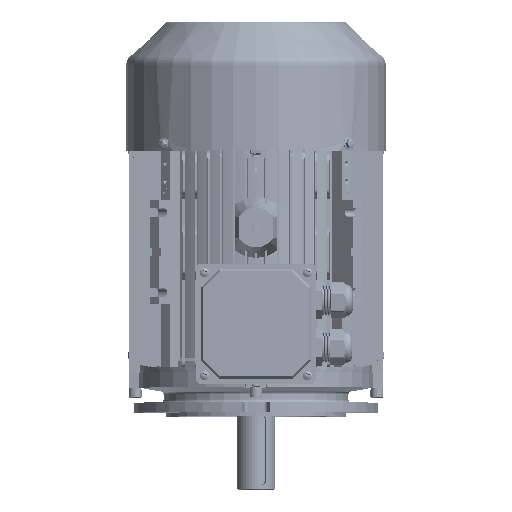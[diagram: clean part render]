
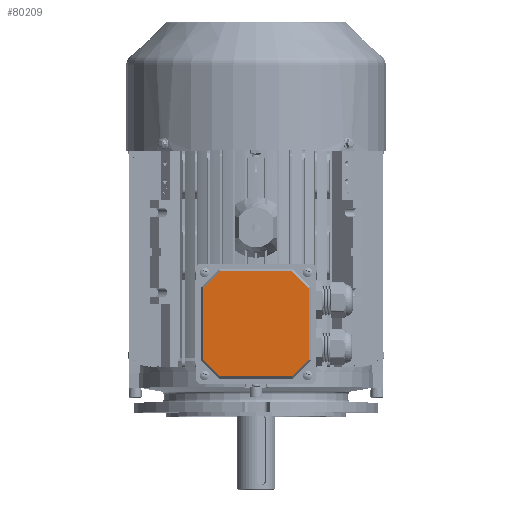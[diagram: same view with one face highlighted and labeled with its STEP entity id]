
A CAD part, top view. The second image highlights one B-rep face of the part: STEP entity #80209.
In plain terms, the highlighted planar face has unit normal (0, 0, 1) as drawn and (0, 0, -1) by its records, which use the part's own axes.
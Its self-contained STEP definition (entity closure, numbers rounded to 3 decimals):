
#11228 = VERTEX_POINT ( 'NONE', #29469 ) ;
#11957 = PLANE ( 'NONE',  #80548 ) ;
#13191 = VERTEX_POINT ( 'NONE', #42967 ) ;
#14477 = VERTEX_POINT ( 'NONE', #82709 ) ;
#15819 = LINE ( 'NONE', #91361, #117903 ) ;
#17680 = CARTESIAN_POINT ( 'NONE',  ( 52.536, 0., -4. ) ) ;
#19867 = LINE ( 'NONE', #121481, #67750 ) ;
#22318 = DIRECTION ( 'NONE',  ( 1., 0., 0. ) ) ;
#22904 = LINE ( 'NONE', #91752, #50037 ) ;
#26185 = EDGE_CURVE ( 'NONE', #57974, #48850, #95060, .T. ) ;
#26287 = LINE ( 'NONE', #17680, #50233 ) ;
#27495 = EDGE_CURVE ( 'NONE', #48850, #11228, #22904, .T. ) ;
#29469 = CARTESIAN_POINT ( 'NONE',  ( -35.903, -52.536, -4. ) ) ;
#30638 = DIRECTION ( 'NONE',  ( 0.707, -0.707, 0. ) ) ;
#33370 = DIRECTION ( 'NONE',  ( -0.707, -0.707, 0. ) ) ;
#33431 = DIRECTION ( 'NONE',  ( 0., -1., 0. ) ) ;
#40153 = CARTESIAN_POINT ( 'NONE',  ( 44.22, -44.22, -4. ) ) ;
#42967 = CARTESIAN_POINT ( 'NONE',  ( 52.536, -35.903, -4. ) ) ;
#48850 = VERTEX_POINT ( 'NONE', #116687 ) ;
#50037 = VECTOR ( 'NONE', #30638, 1000. ) ;
#50233 = VECTOR ( 'NONE', #119736, 1000. ) ;
#50315 = ORIENTED_EDGE ( 'NONE', *, *, #127158, .F. ) ;
#51089 = VERTEX_POINT ( 'NONE', #124661 ) ;
#51240 = ORIENTED_EDGE ( 'NONE', *, *, #82475, .F. ) ;
#53269 = EDGE_CURVE ( 'NONE', #11228, #79626, #125595, .T. ) ;
#54682 = FACE_OUTER_BOUND ( 'NONE', #127284, .T. ) ;
#55790 = ORIENTED_EDGE ( 'NONE', *, *, #111506, .F. ) ;
#57974 = VERTEX_POINT ( 'NONE', #119567 ) ;
#61562 = VECTOR ( 'NONE', #33431, 1000. ) ;
#67750 = VECTOR ( 'NONE', #80989, 1000. ) ;
#79626 = VERTEX_POINT ( 'NONE', #113696 ) ;
#80209 = ADVANCED_FACE ( 'NONE', ( #54682 ), #11957, .F. ) ;
#80548 = AXIS2_PLACEMENT_3D ( 'NONE', #113655, #83346, #22318 ) ;
#80989 = DIRECTION ( 'NONE',  ( -1., 0., 0. ) ) ;
#82475 = EDGE_CURVE ( 'NONE', #13191, #14477, #26287, .T. ) ;
#82586 = EDGE_CURVE ( 'NONE', #96692, #51089, #19867, .T. ) ;
#82709 = CARTESIAN_POINT ( 'NONE',  ( 52.536, 35.903, -4. ) ) ;
#83346 = DIRECTION ( 'NONE',  ( 0., 0., 1. ) ) ;
#86686 = LINE ( 'NONE', #114890, #89865 ) ;
#88363 = ORIENTED_EDGE ( 'NONE', *, *, #53269, .F. ) ;
#89865 = VECTOR ( 'NONE', #33370, 1000. ) ;
#90876 = ORIENTED_EDGE ( 'NONE', *, *, #82586, .F. ) ;
#91361 = CARTESIAN_POINT ( 'NONE',  ( 44.22, 44.22, -4. ) ) ;
#91752 = CARTESIAN_POINT ( 'NONE',  ( -44.22, -44.22, -4. ) ) ;
#95060 = LINE ( 'NONE', #124713, #61562 ) ;
#96692 = VERTEX_POINT ( 'NONE', #115677 ) ;
#98578 = VECTOR ( 'NONE', #99132, 1000. ) ;
#99132 = DIRECTION ( 'NONE',  ( 1., 0., 0. ) ) ;
#102614 = ORIENTED_EDGE ( 'NONE', *, *, #116349, .F. ) ;
#111397 = DIRECTION ( 'NONE',  ( 0.707, 0.707, 0. ) ) ;
#111506 = EDGE_CURVE ( 'NONE', #14477, #96692, #15819, .T. ) ;
#113655 = CARTESIAN_POINT ( 'NONE',  ( 0., 0., -4. ) ) ;
#113696 = CARTESIAN_POINT ( 'NONE',  ( 35.903, -52.536, -4. ) ) ;
#114890 = CARTESIAN_POINT ( 'NONE',  ( -44.22, 44.22, -4. ) ) ;
#114990 = LINE ( 'NONE', #40153, #118163 ) ;
#115677 = CARTESIAN_POINT ( 'NONE',  ( 35.903, 52.536, -4. ) ) ;
#116349 = EDGE_CURVE ( 'NONE', #51089, #57974, #86686, .T. ) ;
#116687 = CARTESIAN_POINT ( 'NONE',  ( -52.536, -35.903, -4. ) ) ;
#117903 = VECTOR ( 'NONE', #132243, 1000. ) ;
#118163 = VECTOR ( 'NONE', #111397, 1000. ) ;
#119538 = CARTESIAN_POINT ( 'NONE',  ( 0., -52.536, -4. ) ) ;
#119567 = CARTESIAN_POINT ( 'NONE',  ( -52.536, 35.903, -4. ) ) ;
#119736 = DIRECTION ( 'NONE',  ( 0., 1., 0. ) ) ;
#121481 = CARTESIAN_POINT ( 'NONE',  ( 0., 52.536, -4. ) ) ;
#121549 = ORIENTED_EDGE ( 'NONE', *, *, #26185, .F. ) ;
#123775 = ORIENTED_EDGE ( 'NONE', *, *, #27495, .F. ) ;
#124661 = CARTESIAN_POINT ( 'NONE',  ( -35.903, 52.536, -4. ) ) ;
#124713 = CARTESIAN_POINT ( 'NONE',  ( -52.536, 0., -4. ) ) ;
#125595 = LINE ( 'NONE', #119538, #98578 ) ;
#127158 = EDGE_CURVE ( 'NONE', #79626, #13191, #114990, .T. ) ;
#127284 = EDGE_LOOP ( 'NONE', ( #51240, #50315, #88363, #123775, #121549, #102614, #90876, #55790 ) ) ;
#132243 = DIRECTION ( 'NONE',  ( -0.707, 0.707, 0. ) ) ;
